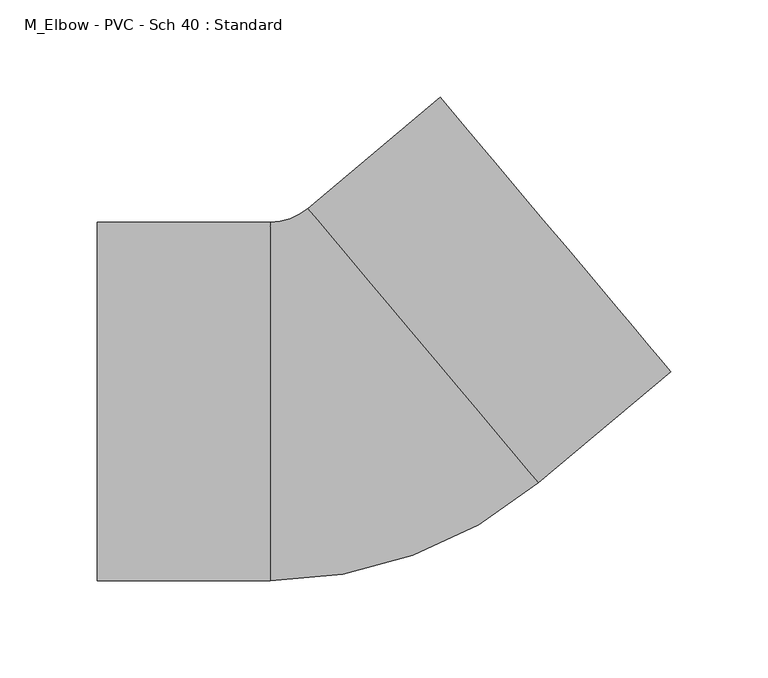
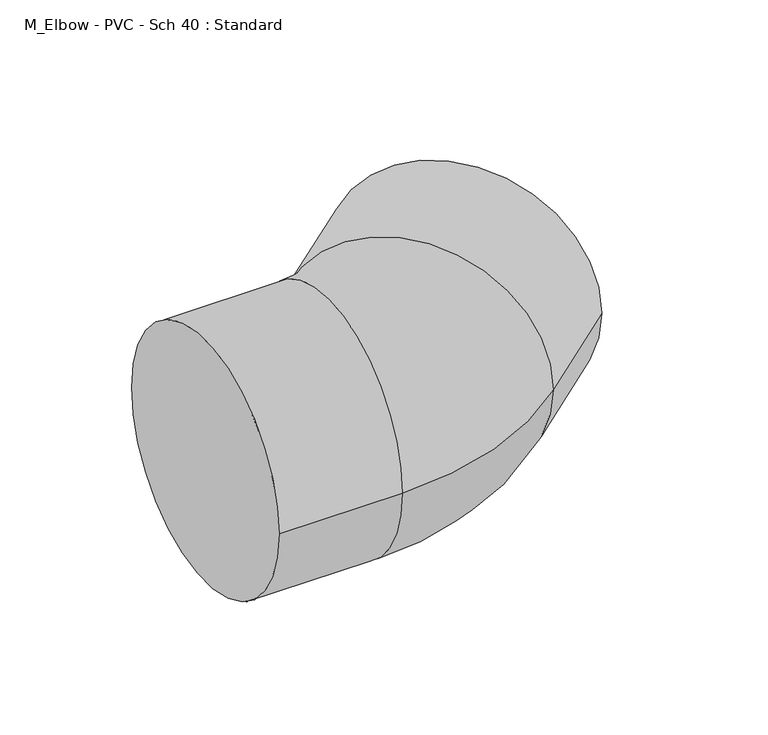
"""IFC4 building model written with IfcOpenShell, lengths in millimetres: pipe fitting geometry, M_Elbow - PVC - Sch 40 : Standard."""

from ifc_helpers import new_model, si_unit, point, frame, origin, place, context, project, spatial, circle_curve, ellipse_curve, trimmed, source, transform, mapped, element, save
from ifc_brep_helpers import plane_surface, cylinder_surface, revolved_surface, advanced_brep


def m_elbow_pvc_sch_40_standard_62035922(model_context):
    return source(origin(), model_context, "Body", "AdvancedBrep", [
        advanced_brep(
        [(-133.35, -92.075, 0.0), (-133.35, 92.075, 0.0), (-44.45, -92.075, 0.0), (-44.45, 92.075, 0.0), (-25.1571415, 99.099578, 0.0), (93.2451433, -41.9398543, 0.0), (161.3331451, 15.2198695, 0.0), (42.9308602, 156.2593017, 0.0)],
        [
            (0, 1, circle_curve(frame((-133.35, 0.0, 0.0), z_axis=(-1.0, 0.0, 0.0), x_axis=(0.0, 1.0, 0.0)), 92.075)),
            (1, 0, circle_curve(frame((-133.35, 0.0, 0.0), z_axis=(-1.0, 0.0, 0.0), x_axis=(0.0, 1.0, 0.0)), 92.075)),
            (0, 2),
            (2, 3, circle_curve(frame((-44.45, 0.0, 0.0), z_axis=(-1.0, 0.0, 0.0), x_axis=(0.0, 1.0, 0.0)), 92.075)),
            (3, 1),
            (3, 2, circle_curve(frame((-44.45, 0.0, 0.0), z_axis=(-1.0, 0.0, 0.0), x_axis=(0.0, 1.0, 0.0)), 92.075)),
            (4, 3, circle_curve(frame((-44.45, 122.0810078, 0.0), z_axis=(0.0, 0.0, -1.0), x_axis=(0.0, -1.0, 0.0)), 30.0060078)),
            (2, 5, circle_curve(frame((-44.45, 122.0810078, 0.0), z_axis=(0.0, 0.0, 1.0), x_axis=(0.0, -1.0, 0.0)), 214.1560078)),
            (5, 4, circle_curve(frame((34.0440009, 28.5798619, 0.0), z_axis=(-0.7658942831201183, -0.6429665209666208, 0.0), x_axis=(-0.6429665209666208, 0.7658942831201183, 0.0)), 92.075)),
            (4, 5, circle_curve(frame((34.0440009, 28.5798619, 0.0), z_axis=(-0.7658942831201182, -0.6429665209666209, 0.0), x_axis=(-0.6429665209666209, 0.7658942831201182, 0.0)), 92.075)),
            (6, 7, circle_curve(frame((102.1320027, 85.7395856, 0.0), z_axis=(0.7658942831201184, 0.6429665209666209, 0.0), x_axis=(-0.6429665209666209, 0.7658942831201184, 0.0)), 92.075)),
            (7, 6, circle_curve(frame((102.1320027, 85.7395856, 0.0), z_axis=(0.7658942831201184, 0.6429665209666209, 0.0), x_axis=(-0.6429665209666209, 0.7658942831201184, 0.0)), 92.075)),
            (5, 6),
            (7, 4),
        ],
        [
            plane_surface(frame((-133.35, 0.0, 0.0), z_axis=(-1.0, 0.0, 0.0), x_axis=(0.0, 0.0, 1.0))),
            cylinder_surface(frame((-133.35, 0.0, 0.0), z_axis=(-1.0, 0.0, 0.0), x_axis=(0.0, 1.0, 0.0)), 92.075),
            revolved_surface(trimmed(ellipse_curve(frame((-44.45, 0.0, 0.0), z_axis=(-1.0, 0.0, 0.0), x_axis=(0.0, 1.0, 0.0)), 92.075, 92.075), [point((-44.45, -92.075, 0.0))], [point((-44.45, 92.075, 0.0))], True, "CARTESIAN"), (-44.45, 122.0810078, 0.0), (0.0, 0.0, 1.0)),
            revolved_surface(trimmed(ellipse_curve(frame((-44.45, 0.0, 0.0), z_axis=(-1.0, 0.0, 0.0), x_axis=(0.0, 1.0, 0.0)), 92.075, 92.075), [point((-44.45, 92.075, 0.0))], [point((-44.45, -92.075, 0.0))], True, "CARTESIAN"), (-44.45, 122.0810078, 0.0), (0.0, 0.0, 1.0)),
            plane_surface(frame((102.1320027, 85.7395856, 0.0), z_axis=(0.7658942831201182, 0.6429665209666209, 0.0), x_axis=(0.0, 0.0, 1.0))),
            cylinder_surface(frame((34.0440009, 28.5798619, 0.0), z_axis=(-0.7658942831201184, -0.6429665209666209, 0.0), x_axis=(-0.6429665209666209, 0.7658942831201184, 0.0)), 92.075),
        ],
        [
            (0, [[1, 2]]),
            (1, [[-1, 3, 4, 5]]),
            (1, [[-2, -5, 6, -3]]),
            (2, [[7, -4, 8, 9]]),
            (3, [[-8, -6, -7, 10]]),
            (4, [[11, 12]]),
            (5, [[-9, 13, -12, 14]]),
            (5, [[-10, -14, -11, -13]]),
        ],
    ),
    ])


if __name__ == "__main__":
    model = new_model("IFC4")
    model_context = context("Model", 3, world=origin())
    ifc_project = project(units=[si_unit("LENGTHUNIT", "METRE", prefix="MILLI")], contexts=[model_context])
    site = spatial("IfcSite", under=ifc_project)
    building = spatial("IfcBuilding", under=site)
    placement = place(None, origin())
    m_elbow_pvc_sch_40_standard_shape = m_elbow_pvc_sch_40_standard_62035922(model_context)
    element("IfcPipeFitting", 1, ObjectType="M_Elbow - PVC - Sch 40 : Standard", at=placement, inside=building, context=model_context, shape_type="MappedRepresentation", body=[
        mapped(m_elbow_pvc_sch_40_standard_shape, transform((0.0, 0.0, 0.0), x_axis=(1.0, 0.0, 0.0), y_axis=(0.0, 1.0, 0.0), z_axis=(0.0, 0.0, 1.0))),
    ])
    save(model, "model.ifc")
